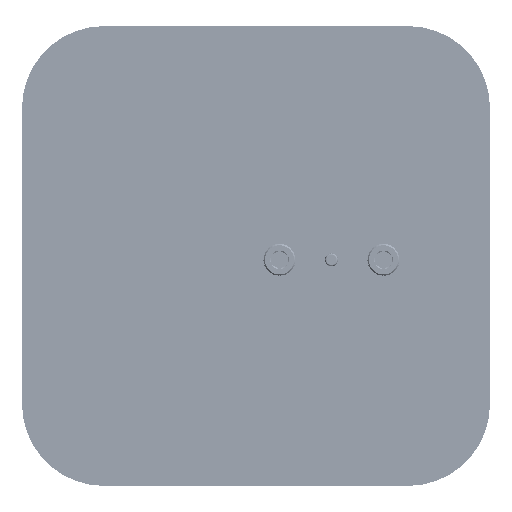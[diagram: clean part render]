
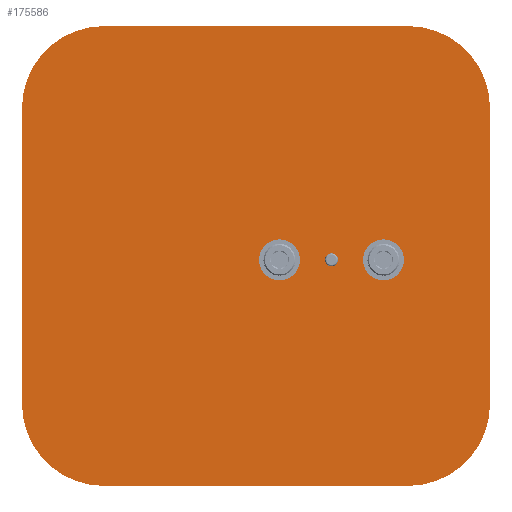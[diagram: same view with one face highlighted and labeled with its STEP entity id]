
A CAD part, front view. The second image highlights one B-rep face of the part: STEP entity #175586.
In plain terms, the highlighted planar face has unit normal (0, -1, 0).
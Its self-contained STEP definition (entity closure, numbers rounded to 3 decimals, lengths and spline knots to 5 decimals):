
#5701=PLANE('',#194142);
#14614=CIRCLE('',#194143,0.00159);
#14615=CIRCLE('',#194144,0.02);
#14616=CIRCLE('',#194145,0.02);
#14617=CIRCLE('',#194146,0.02);
#14618=CIRCLE('',#194147,0.02);
#14619=CIRCLE('',#194148,0.005);
#14620=CIRCLE('',#194149,0.005);
#29745=LINE('',#454161,#37506);
#29752=LINE('',#454200,#37513);
#29753=LINE('',#454204,#37514);
#29754=LINE('',#454208,#37515);
#37506=VECTOR('',#234868,1.);
#37513=VECTOR('',#234899,1.);
#37514=VECTOR('',#234902,1.);
#37515=VECTOR('',#234905,1.);
#90178=ORIENTED_EDGE('',*,*,#117021,.T.);
#90179=ORIENTED_EDGE('',*,*,#117005,.F.);
#90180=ORIENTED_EDGE('',*,*,#117022,.T.);
#90181=ORIENTED_EDGE('',*,*,#117023,.T.);
#90182=ORIENTED_EDGE('',*,*,#117024,.T.);
#90183=ORIENTED_EDGE('',*,*,#117025,.T.);
#90184=ORIENTED_EDGE('',*,*,#117026,.T.);
#90185=ORIENTED_EDGE('',*,*,#117027,.F.);
#90186=ORIENTED_EDGE('',*,*,#117028,.T.);
#90187=ORIENTED_EDGE('',*,*,#117029,.F.);
#90188=ORIENTED_EDGE('',*,*,#117030,.F.);
#117005=EDGE_CURVE('',#135349,#135350,#29745,.T.);
#117021=EDGE_CURVE('',#135361,#135361,#14614,.F.);
#117022=EDGE_CURVE('',#135349,#135362,#14615,.T.);
#117023=EDGE_CURVE('',#135362,#135363,#29752,.T.);
#117024=EDGE_CURVE('',#135363,#135364,#14616,.T.);
#117025=EDGE_CURVE('',#135364,#135365,#29753,.T.);
#117026=EDGE_CURVE('',#135365,#135366,#14617,.T.);
#117027=EDGE_CURVE('',#135367,#135366,#29754,.T.);
#117028=EDGE_CURVE('',#135367,#135350,#14618,.T.);
#117029=EDGE_CURVE('',#135368,#135368,#14619,.T.);
#117030=EDGE_CURVE('',#135369,#135369,#14620,.T.);
#135349=VERTEX_POINT('',#454160);
#135350=VERTEX_POINT('',#454162);
#135361=VERTEX_POINT('',#454197);
#135362=VERTEX_POINT('',#454199);
#135363=VERTEX_POINT('',#454201);
#135364=VERTEX_POINT('',#454203);
#135365=VERTEX_POINT('',#454205);
#135366=VERTEX_POINT('',#454207);
#135367=VERTEX_POINT('',#454209);
#135368=VERTEX_POINT('',#454212);
#135369=VERTEX_POINT('',#454214);
#152054=EDGE_LOOP('',(#90178));
#152055=EDGE_LOOP('',(#90179,#90180,#90181,#90182,#90183,#90184,#90185,
#90186));
#152056=EDGE_LOOP('',(#90187));
#152057=EDGE_LOOP('',(#90188));
#163710=FACE_BOUND('',#152054,.T.);
#163711=FACE_BOUND('',#152055,.T.);
#163712=FACE_BOUND('',#152056,.T.);
#163713=FACE_BOUND('',#152057,.T.);
#175586=ADVANCED_FACE('',(#163710,#163711,#163712,#163713),#5701,.T.);
#194142=AXIS2_PLACEMENT_3D('',#454195,#234893,#234894);
#194143=AXIS2_PLACEMENT_3D('',#454196,#234895,#234896);
#194144=AXIS2_PLACEMENT_3D('',#454198,#234897,#234898);
#194145=AXIS2_PLACEMENT_3D('',#454202,#234900,#234901);
#194146=AXIS2_PLACEMENT_3D('',#454206,#234903,#234904);
#194147=AXIS2_PLACEMENT_3D('',#454210,#234906,#234907);
#194148=AXIS2_PLACEMENT_3D('',#454211,#234908,#234909);
#194149=AXIS2_PLACEMENT_3D('',#454213,#234910,#234911);
#234868=DIRECTION('',(0.,0.,1.));
#234893=DIRECTION('',(0.,-1.,0.));
#234894=DIRECTION('',(1.,0.,0.));
#234895=DIRECTION('',(0.,-1.,0.));
#234896=DIRECTION('',(0.,0.,-1.));
#234897=DIRECTION('',(0.,-1.,0.));
#234898=DIRECTION('',(1.,0.,0.));
#234899=DIRECTION('',(1.,0.,0.));
#234900=DIRECTION('',(0.,-1.,0.));
#234901=DIRECTION('',(1.,0.,0.));
#234902=DIRECTION('',(0.,0.,1.));
#234903=DIRECTION('',(0.,-1.,0.));
#234904=DIRECTION('',(1.,0.,0.));
#234905=DIRECTION('',(1.,0.,0.));
#234906=DIRECTION('',(0.,-1.,0.));
#234907=DIRECTION('',(1.,0.,0.));
#234908=DIRECTION('',(0.,-1.,0.));
#234909=DIRECTION('',(1.,0.,0.));
#234910=DIRECTION('',(0.,-1.,0.));
#234911=DIRECTION('',(1.,0.,0.));
#454160=CARTESIAN_POINT('',(-0.05766,-0.12746,0.01368));
#454161=CARTESIAN_POINT('',(-0.05766,-0.12746,0.0605));
#454162=CARTESIAN_POINT('',(-0.05766,-0.12746,0.086));
#454195=CARTESIAN_POINT('',(0.01794,-0.12746,0.0489));
#454196=CARTESIAN_POINT('',(0.01794,-0.12746,0.0489));
#454197=CARTESIAN_POINT('',(0.01794,-0.12746,0.04731));
#454198=CARTESIAN_POINT('',(-0.03766,-0.12746,0.01368));
#454199=CARTESIAN_POINT('',(-0.03766,-0.12746,-0.00633));
#454200=CARTESIAN_POINT('',(-0.0005,-0.12746,-0.00633));
#454201=CARTESIAN_POINT('',(0.03666,-0.12746,-0.00633));
#454202=CARTESIAN_POINT('',(0.03666,-0.12746,0.01368));
#454203=CARTESIAN_POINT('',(0.05666,-0.12746,0.01368));
#454204=CARTESIAN_POINT('',(0.05666,-0.12746,0.0605));
#454205=CARTESIAN_POINT('',(0.05666,-0.12746,0.086));
#454206=CARTESIAN_POINT('',(0.03666,-0.12746,0.086));
#454207=CARTESIAN_POINT('',(0.03666,-0.12746,0.106));
#454208=CARTESIAN_POINT('',(-0.0005,-0.12746,0.106));
#454209=CARTESIAN_POINT('',(-0.03766,-0.12746,0.106));
#454210=CARTESIAN_POINT('',(-0.03766,-0.12746,0.086));
#454211=CARTESIAN_POINT('',(0.00524,-0.12746,0.0489));
#454212=CARTESIAN_POINT('',(0.01024,-0.12746,0.0489));
#454213=CARTESIAN_POINT('',(0.03064,-0.12746,0.0489));
#454214=CARTESIAN_POINT('',(0.03564,-0.12746,0.0489));
